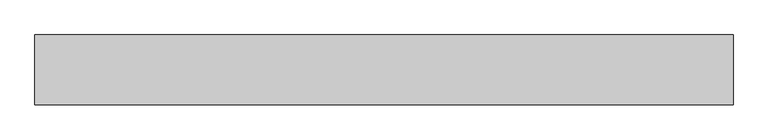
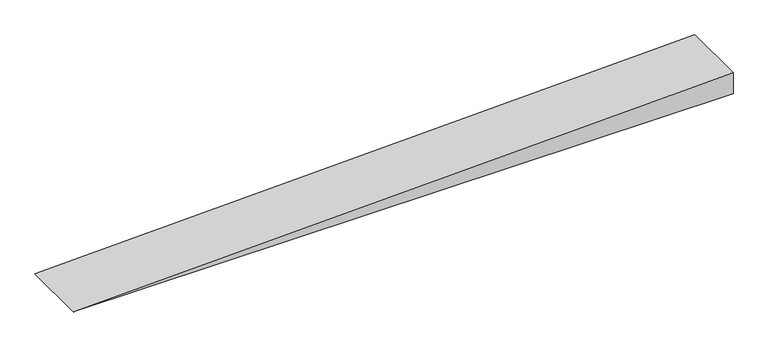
"""IFC4 building model written with IfcOpenShell, lengths in millimetres: ramp geometry, 24_RA_hellingbaan_beton_prefab_solid."""

from ifc_helpers import new_model, si_unit, frame, origin, place, context, project, spatial, polyline, outline, extrude, source, transform, mapped, element, save


def ramp_a4a3c088(model_context):
    return source(origin(), model_context, "Body", "SweptSolid", [
        extrude(outline(polyline([(333.3333333, 27650.3204725), (0.0, 17650.3204725), (0.0, 27650.3204725), (333.3333333, 27650.3204725)])), frame((0.0, -35150.6479444, 0.0), z_axis=(0.0, 1.0, 0.0), x_axis=(0.0, 0.0, 1.0)), (0.0, 0.0, 1.0), 1000.0),
    ])


if __name__ == "__main__":
    model = new_model("IFC4")
    model_context = context("Model", 3, world=origin())
    ifc_project = project(units=[si_unit("LENGTHUNIT", "METRE", prefix="MILLI")], contexts=[model_context])
    site = spatial("IfcSite", under=ifc_project)
    building = spatial("IfcBuilding", under=site)
    placement = place(None, origin())
    ramp_shape = ramp_a4a3c088(model_context)
    element("IfcRamp", 1, ObjectType="24_RA_hellingbaan_beton_prefab_solid", at=placement, inside=building, context=model_context, shape_type="MappedRepresentation", body=[
        mapped(ramp_shape, transform((0.0, 0.0, 0.0), x_axis=(1.0, 0.0, 0.0), y_axis=(0.0, 1.0, 0.0), z_axis=(0.0, 0.0, 1.0))),
    ])
    save(model, "model.ifc")
